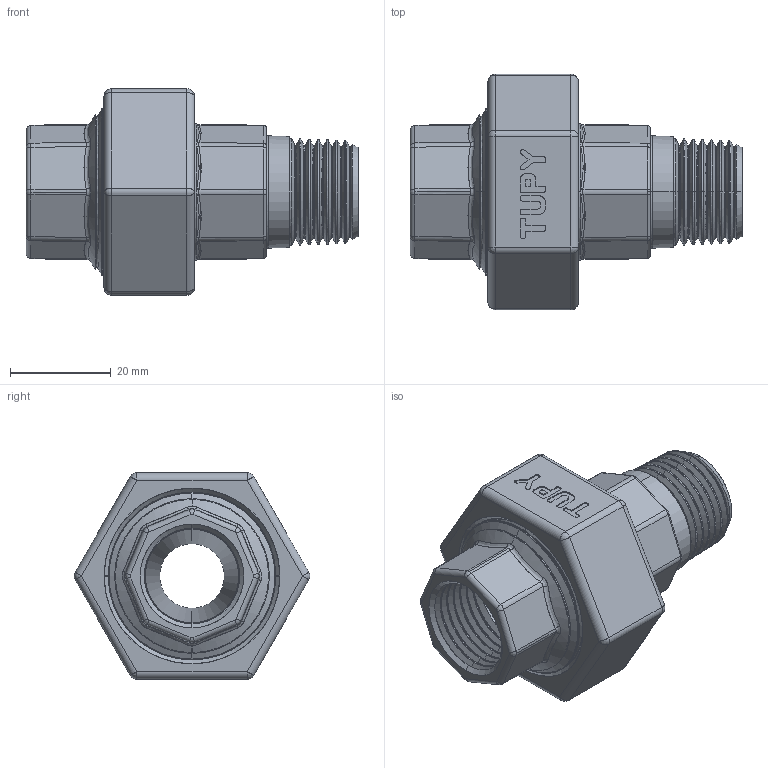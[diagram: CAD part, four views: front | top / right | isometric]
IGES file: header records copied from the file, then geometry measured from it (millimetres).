
Start section: SolidWorks IGES file using analytic representation for surfaces
Global section: file name: C:\Users\Joel Rosa\Desktop\Tubulação\12-65-X\12-65-004.IGS; native system: SolidWorks 2011; preprocessor: SolidWorks 2011; author: Joel Rosa; date: 130721.192749; units: millimetre
Bounding box: 66 x 46.88 x 41 mm (x, y, z)
Surface area: 19562 mm2 (no closed solid volume)
Topology: 0 solids, 0 shells, 539 faces, 4045 edges, 4037 vertices
Faces by surface type: bspline 329, revolution 210
